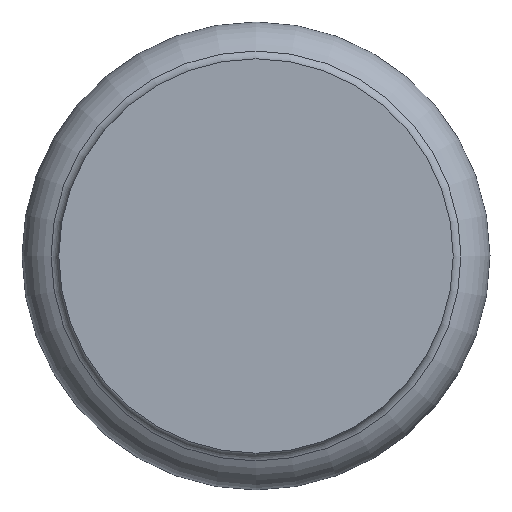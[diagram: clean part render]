
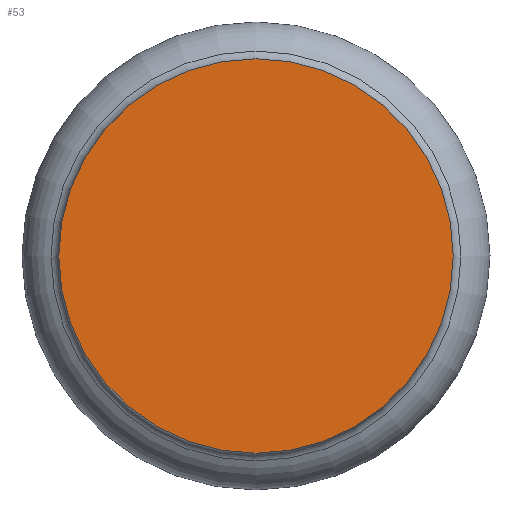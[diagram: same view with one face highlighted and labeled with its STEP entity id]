
A CAD part, front view. The second image highlights one B-rep face of the part: STEP entity #53.
In plain terms, the highlighted planar face has unit normal (0, -1, 0).
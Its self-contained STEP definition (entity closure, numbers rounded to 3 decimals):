
#53=ADVANCED_FACE('',(#64),#66,.T.);
#64=FACE_BOUND('',#65,.T.);
#65=EDGE_LOOP('',(#159));
#66=PLANE('',#67);
#67=AXIS2_PLACEMENT_3D('',#68,#69,#70);
#68=CARTESIAN_POINT('',(0.,-50.5,0.));
#69=DIRECTION('',(0.,-1.,0.));
#70=DIRECTION('',(0.,0.,1.));
#159=ORIENTED_EDGE('',*,*,#179,.F.);
#179=EDGE_CURVE('',#189,#189,#190,.T.);
#189=VERTEX_POINT('',#209);
#190=CIRCLE('',#210,15.63);
#209=CARTESIAN_POINT('',(0.,-50.5,15.63));
#210=AXIS2_PLACEMENT_3D('',#211,#212,#213);
#211=CARTESIAN_POINT('',(0.,-50.5,0.));
#212=DIRECTION('',(0.,1.,0.));
#213=DIRECTION('',(0.,0.,1.));
